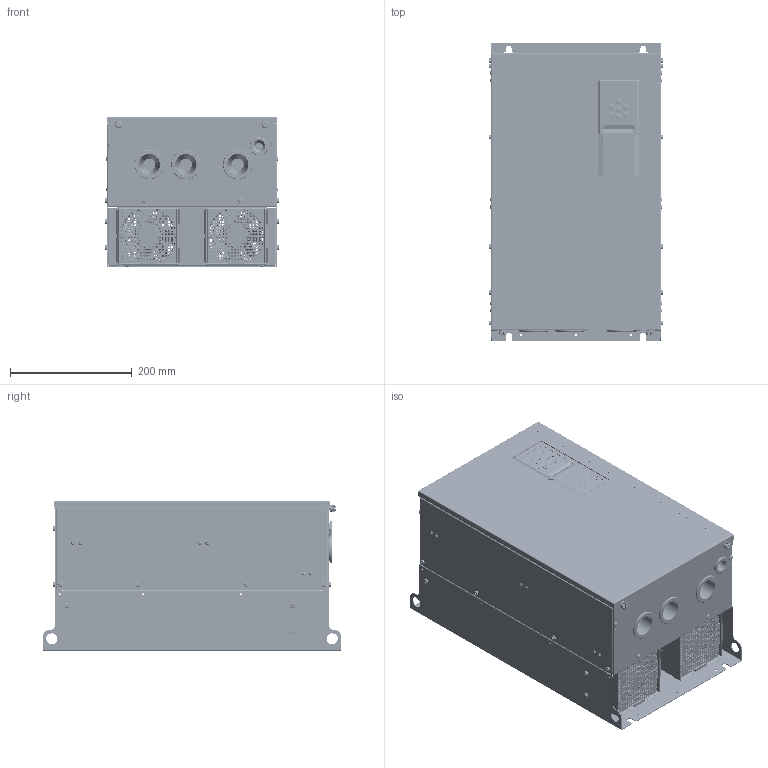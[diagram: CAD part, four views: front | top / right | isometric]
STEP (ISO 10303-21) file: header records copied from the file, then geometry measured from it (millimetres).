
FILE_DESCRIPTION((''),'2;1');
FILE_NAME('D5-DRIVE_REV00_ASM','2022-03-02T10:56:01',('wendong.luo'),(''),'CREO PARAMETRIC BY PTC INC, 2018100','CREO PARAMETRIC BY PTC INC, 2018100','');
FILE_SCHEMA(('CONFIG_CONTROL_DESIGN','GEOMETRIC_VALIDATION_PROPERTIES_MIM'));
Products named in the file (35): D5-MECHANICAL-PART; M0204013; M0204012; RIVETING-NUT-4_; M0202008; M0202003; M0202009; M0100015; M0202014; FASTEN_ASM; E0400063; E0400064; M0104021; FAN9238; AIR-IN-FILTER; FAN-ASM-9238_ASM; M0104030; M0104033; E0100084; E0400023; E0400008; E0400009; E0400001; E0400011; E0100084_ASM; M0203006; M0203025; M0203032; M0104034; CU_NEW_ASM; M0100026; M4-MOUNTING-SCREW-RIVET; M0100026_ASM; M0203033; D5-DRIVE_REV00_ASM
Assembly tree (85 placements, depth 4):
  D5-DRIVE_REV00_ASM
    D5-MECHANICAL-PART
    M0204013
    M0204012  x3
    FASTEN_ASM
      RIVETING-NUT-4_  x12
      M0202008  x22
      M0202003  x12
      M0202009  x2
      M0100015  x2
      M0202014  x2
    E0400063
    E0400064
    FAN-ASM-9238_ASM  x2
      M0104021
      FAN9238
      AIR-IN-FILTER
    M0104030
    CU_NEW_ASM
      M0104033
      E0100084_ASM
        E0100084
        E0400023
        E0400008
        E0400009  x2
        E0400001
        E0400011
      M0203006
      M0203025
      M0203032
      M0104034
    M0100026_ASM
      M0100026
      M4-MOUNTING-SCREW-RIVET  x2
    M0203033
Bounding box: 286.2 x 490 x 246.15 mm (x, y, z)
Volume: 2209211.2 mm3; surface area: 2029414 mm2
Topology: 109 solids, 137 shells, 22411 faces, 60953 edges, 39428 vertices
Faces by surface type: plane 13067, cylinder 4203, bspline 2112, extrusion 1616, cone 728, torus 566, sphere 119
Entity records: 655663 total; most frequent: CARTESIAN_POINT 172113, ORIENTED_EDGE 80710, DIRECTION 64472, EDGE_CURVE 40391, PRESENTATION_STYLE_ASSIGNMENT 32386, STYLED_ITEM 29767, CURVE_STYLE 29715, VECTOR 28820
